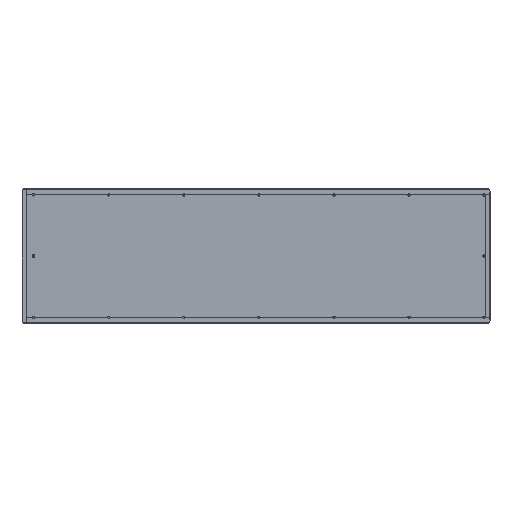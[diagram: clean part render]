
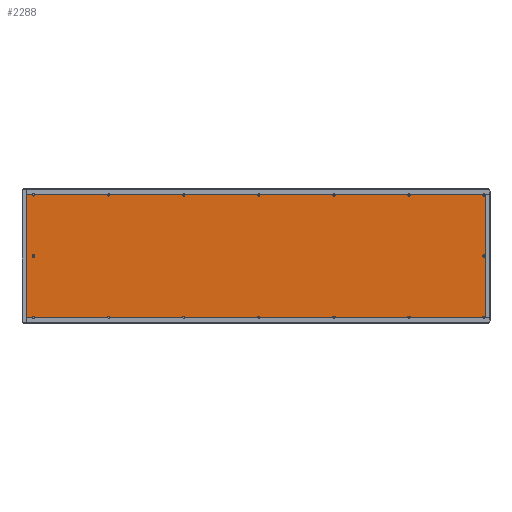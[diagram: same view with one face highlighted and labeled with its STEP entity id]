
A CAD part, top view. The second image highlights one B-rep face of the part: STEP entity #2288.
In plain terms, the highlighted planar face has unit normal (0, 0, 1).
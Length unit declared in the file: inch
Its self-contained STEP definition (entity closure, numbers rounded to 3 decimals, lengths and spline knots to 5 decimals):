
#73 = LINE ( 'NONE', #3681, #3361 ) ;
#115 = EDGE_CURVE ( 'NONE', #918, #3849, #337, .T. ) ;
#337 = LINE ( 'NONE', #1402, #2388 ) ;
#382 = EDGE_CURVE ( 'NONE', #1962, #3044, #3079, .T. ) ;
#918 = VERTEX_POINT ( 'NONE', #1593 ) ;
#1213 = AXIS2_PLACEMENT_3D ( 'NONE', #3366, #3029, #2698 ) ;
#1370 = CARTESIAN_POINT ( 'NONE',  ( -41.65683, -11.67, -0.2165 ) ) ;
#1373 = ORIENTED_EDGE ( 'NONE', *, *, #115, .F. ) ;
#1398 = DIRECTION ( 'NONE',  ( 0., 1., 0. ) ) ;
#1402 = CARTESIAN_POINT ( 'NONE',  ( -41.67, -11.64321, -0.2165 ) ) ;
#1593 = CARTESIAN_POINT ( 'NONE',  ( 41.65683, -11.64321, -0.2165 ) ) ;
#1694 = DIRECTION ( 'NONE',  ( -1., 0., 0. ) ) ;
#1796 = DIRECTION ( 'NONE',  ( 0., -1., 0. ) ) ;
#1935 = VECTOR ( 'NONE', #1398, 39.37008 ) ;
#1962 = VERTEX_POINT ( 'NONE', #2304 ) ;
#1995 = FACE_OUTER_BOUND ( 'NONE', #2832, .T. ) ;
#2105 = CARTESIAN_POINT ( 'NONE',  ( -41.67, 11.64321, -0.2165 ) ) ;
#2288 = ADVANCED_FACE ( 'NONE', ( #1995 ), #3665, .T. ) ;
#2304 = CARTESIAN_POINT ( 'NONE',  ( -41.65683, 11.64321, -0.2165 ) ) ;
#2328 = CARTESIAN_POINT ( 'NONE',  ( 41.65683, 11.64321, -0.2165 ) ) ;
#2359 = ORIENTED_EDGE ( 'NONE', *, *, #382, .F. ) ;
#2388 = VECTOR ( 'NONE', #1694, 39.37008 ) ;
#2582 = CARTESIAN_POINT ( 'NONE',  ( -41.65683, -11.64321, -0.2165 ) ) ;
#2698 = DIRECTION ( 'NONE',  ( 1., 0., 0. ) ) ;
#2832 = EDGE_LOOP ( 'NONE', ( #3082, #2359, #3253, #1373 ) ) ;
#3029 = DIRECTION ( 'NONE',  ( 0., 0., 1. ) ) ;
#3044 = VERTEX_POINT ( 'NONE', #2328 ) ;
#3079 = LINE ( 'NONE', #2105, #4034 ) ;
#3082 = ORIENTED_EDGE ( 'NONE', *, *, #4072, .F. ) ;
#3253 = ORIENTED_EDGE ( 'NONE', *, *, #3888, .F. ) ;
#3361 = VECTOR ( 'NONE', #1796, 39.37008 ) ;
#3366 = CARTESIAN_POINT ( 'NONE',  ( -41.67, -11.67, -0.2165 ) ) ;
#3393 = DIRECTION ( 'NONE',  ( 1., 0., 0. ) ) ;
#3417 = LINE ( 'NONE', #1370, #1935 ) ;
#3665 = PLANE ( 'NONE',  #1213 ) ;
#3681 = CARTESIAN_POINT ( 'NONE',  ( 41.65683, -11.67, -0.2165 ) ) ;
#3849 = VERTEX_POINT ( 'NONE', #2582 ) ;
#3888 = EDGE_CURVE ( 'NONE', #3849, #1962, #3417, .T. ) ;
#4034 = VECTOR ( 'NONE', #3393, 39.37008 ) ;
#4072 = EDGE_CURVE ( 'NONE', #3044, #918, #73, .T. ) ;
